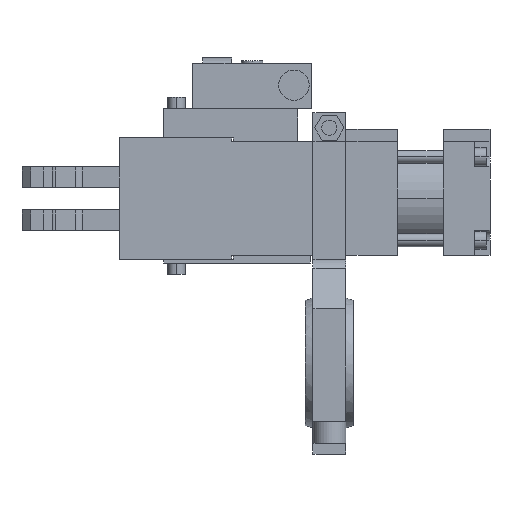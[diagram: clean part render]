
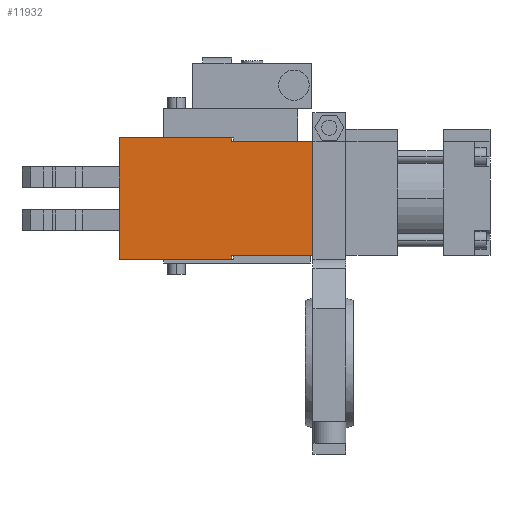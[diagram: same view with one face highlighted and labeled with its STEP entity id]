
A CAD part, left-side view. The second image highlights one B-rep face of the part: STEP entity #11932.
In plain terms, the highlighted planar face has unit normal (-1, 0, 0).
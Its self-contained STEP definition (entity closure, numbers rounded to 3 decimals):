
#15 = VERTEX_POINT ( 'NONE', #16113 ) ;
#271 = VERTEX_POINT ( 'NONE', #11924 ) ;
#335 = VECTOR ( 'NONE', #6933, 1000. ) ;
#626 = CARTESIAN_POINT ( 'NONE',  ( -22.5, -8., -22.5 ) ) ;
#757 = LINE ( 'NONE', #6849, #335 ) ;
#767 = DIRECTION ( 'NONE',  ( 0., 0., -1. ) ) ;
#855 = CARTESIAN_POINT ( 'NONE',  ( -22.5, 22., 12.5 ) ) ;
#881 = CARTESIAN_POINT ( 'NONE',  ( -22.5, -40., 12.5 ) ) ;
#1030 = ORIENTED_EDGE ( 'NONE', *, *, #10900, .F. ) ;
#1213 = CARTESIAN_POINT ( 'NONE',  ( -22.5, 22., 24. ) ) ;
#1280 = CARTESIAN_POINT ( 'NONE',  ( -22.5, -40., -22.5 ) ) ;
#1641 = EDGE_CURVE ( 'NONE', #11242, #14813, #9146, .T. ) ;
#1770 = VECTOR ( 'NONE', #15521, 1000. ) ;
#1911 = VECTOR ( 'NONE', #3617, 1000. ) ;
#2078 = DIRECTION ( 'NONE',  ( 0., 0., 1. ) ) ;
#2094 = CARTESIAN_POINT ( 'NONE',  ( -22.5, 36.5, 24. ) ) ;
#2323 = ORIENTED_EDGE ( 'NONE', *, *, #3030, .F. ) ;
#3027 = EDGE_CURVE ( 'NONE', #11830, #12170, #757, .T. ) ;
#3030 = EDGE_CURVE ( 'NONE', #16011, #15, #3733, .T. ) ;
#3395 = DIRECTION ( 'NONE',  ( 1., 0., 0. ) ) ;
#3617 = DIRECTION ( 'NONE',  ( 0., -1., 0. ) ) ;
#3733 = LINE ( 'NONE', #7062, #16212 ) ;
#3747 = VECTOR ( 'NONE', #12612, 1000. ) ;
#4065 = CARTESIAN_POINT ( 'NONE',  ( -22.5, 36.5, 24. ) ) ;
#5106 = ORIENTED_EDGE ( 'NONE', *, *, #13337, .F. ) ;
#5152 = LINE ( 'NONE', #14309, #1770 ) ;
#5411 = EDGE_CURVE ( 'NONE', #15, #12170, #15605, .T. ) ;
#5640 = LINE ( 'NONE', #8376, #11991 ) ;
#6230 = DIRECTION ( 'NONE',  ( 0., -1., 0. ) ) ;
#6849 = CARTESIAN_POINT ( 'NONE',  ( -22.5, 22., -22.5 ) ) ;
#6933 = DIRECTION ( 'NONE',  ( 0., -1., 0. ) ) ;
#7062 = CARTESIAN_POINT ( 'NONE',  ( -22.5, 22., 22.5 ) ) ;
#7151 = ORIENTED_EDGE ( 'NONE', *, *, #1641, .F. ) ;
#7200 = PLANE ( 'NONE',  #15885 ) ;
#7307 = FACE_OUTER_BOUND ( 'NONE', #9275, .T. ) ;
#7528 = EDGE_CURVE ( 'NONE', #10539, #11830, #5152, .T. ) ;
#7660 = ORIENTED_EDGE ( 'NONE', *, *, #7528, .T. ) ;
#8019 = ORIENTED_EDGE ( 'NONE', *, *, #3027, .T. ) ;
#8303 = LINE ( 'NONE', #10038, #1911 ) ;
#8376 = CARTESIAN_POINT ( 'NONE',  ( -22.5, -8., 24. ) ) ;
#8718 = ORIENTED_EDGE ( 'NONE', *, *, #12072, .T. ) ;
#9146 = LINE ( 'NONE', #2094, #15299 ) ;
#9275 = EDGE_LOOP ( 'NONE', ( #1030, #7151, #8718, #7660, #8019, #13880, #2323, #5106 ) ) ;
#10038 = CARTESIAN_POINT ( 'NONE',  ( -22.5, 22., -24. ) ) ;
#10132 = LINE ( 'NONE', #1213, #3747 ) ;
#10539 = VERTEX_POINT ( 'NONE', #15306 ) ;
#10900 = EDGE_CURVE ( 'NONE', #14813, #271, #10132, .T. ) ;
#10934 = DIRECTION ( 'NONE',  ( 0., 0., -1. ) ) ;
#11242 = VERTEX_POINT ( 'NONE', #12016 ) ;
#11348 = CARTESIAN_POINT ( 'NONE',  ( -22.5, -8., 22.5 ) ) ;
#11830 = VERTEX_POINT ( 'NONE', #626 ) ;
#11924 = CARTESIAN_POINT ( 'NONE',  ( -22.5, -8., 24. ) ) ;
#11932 = ADVANCED_FACE ( 'NONE', ( #7307 ), #7200, .F. ) ;
#11991 = VECTOR ( 'NONE', #10934, 1000. ) ;
#12016 = CARTESIAN_POINT ( 'NONE',  ( -22.5, 36.5, -24. ) ) ;
#12072 = EDGE_CURVE ( 'NONE', #11242, #10539, #8303, .T. ) ;
#12170 = VERTEX_POINT ( 'NONE', #1280 ) ;
#12266 = DIRECTION ( 'NONE',  ( 0., 1., 0. ) ) ;
#12612 = DIRECTION ( 'NONE',  ( 0., -1., 0. ) ) ;
#13337 = EDGE_CURVE ( 'NONE', #271, #16011, #5640, .T. ) ;
#13880 = ORIENTED_EDGE ( 'NONE', *, *, #5411, .F. ) ;
#14309 = CARTESIAN_POINT ( 'NONE',  ( -22.5, -8., -24. ) ) ;
#14813 = VERTEX_POINT ( 'NONE', #4065 ) ;
#15194 = VECTOR ( 'NONE', #767, 1000. ) ;
#15299 = VECTOR ( 'NONE', #2078, 1000. ) ;
#15306 = CARTESIAN_POINT ( 'NONE',  ( -22.5, -8., -24. ) ) ;
#15521 = DIRECTION ( 'NONE',  ( 0., 0., 1. ) ) ;
#15605 = LINE ( 'NONE', #881, #15194 ) ;
#15885 = AXIS2_PLACEMENT_3D ( 'NONE', #855, #3395, #12266 ) ;
#16011 = VERTEX_POINT ( 'NONE', #11348 ) ;
#16113 = CARTESIAN_POINT ( 'NONE',  ( -22.5, -40., 22.5 ) ) ;
#16212 = VECTOR ( 'NONE', #6230, 1000. ) ;
